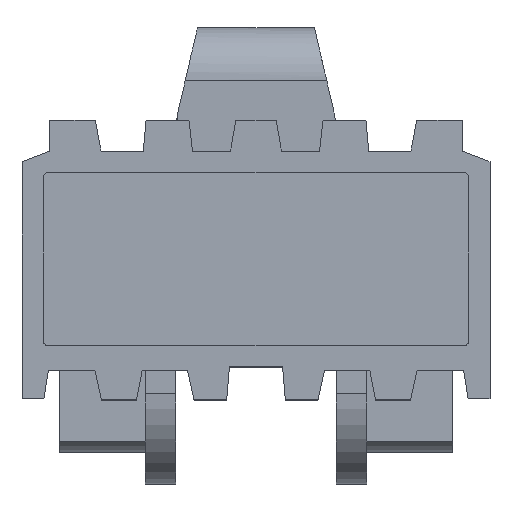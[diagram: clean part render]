
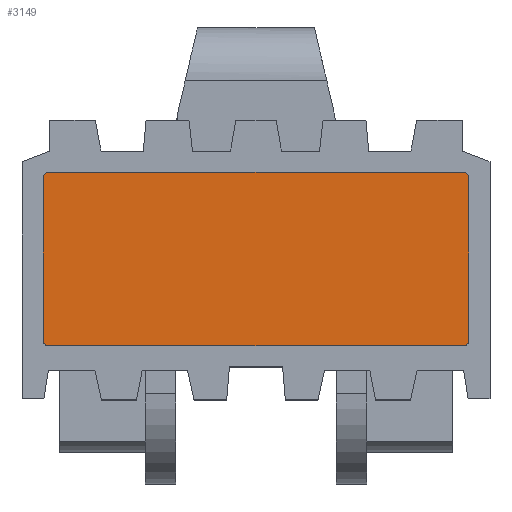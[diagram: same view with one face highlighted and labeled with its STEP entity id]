
A CAD part, top view. The second image highlights one B-rep face of the part: STEP entity #3149.
In plain terms, the highlighted planar face has unit normal (0, 0, 1).
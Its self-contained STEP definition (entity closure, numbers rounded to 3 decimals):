
#20 = CARTESIAN_POINT ( 'NONE',  ( 158.9, 128.094, 4.242 ) ) ;
#21 = DIRECTION ( 'NONE',  ( 0., 0., 1. ) ) ;
#22 = DIRECTION ( 'NONE',  ( 1., 0., 0. ) ) ;
#25 = LINE ( 'NONE', #32, #2075 ) ;
#32 = CARTESIAN_POINT ( 'NONE',  ( 158.9, 127.594, 4.242 ) ) ;
#33 = DIRECTION ( 'NONE',  ( 1., 0., 0. ) ) ;
#34 = LINE ( 'NONE', #35, #2055 ) ;
#35 = CARTESIAN_POINT ( 'NONE',  ( 198.4, 143.394, 4.242 ) ) ;
#36 = DIRECTION ( 'NONE',  ( 0., 1., 0. ) ) ;
#42 = CARTESIAN_POINT ( 'NONE',  ( 197.9, 128.094, 4.242 ) ) ;
#43 = DIRECTION ( 'NONE',  ( 0., 0., 1. ) ) ;
#44 = DIRECTION ( 'NONE',  ( 1., 0., 0. ) ) ;
#53 = LINE ( 'NONE', #66, #2058 ) ;
#54 = LINE ( 'NONE', #60, #2033 ) ;
#55 = CARTESIAN_POINT ( 'NONE',  ( 158.9, 143.394, 4.242 ) ) ;
#56 = DIRECTION ( 'NONE',  ( 0., 0., 1. ) ) ;
#57 = DIRECTION ( 'NONE',  ( 1., 0., 0. ) ) ;
#60 = CARTESIAN_POINT ( 'NONE',  ( 158.9, 143.894, 4.242 ) ) ;
#61 = DIRECTION ( 'NONE',  ( -1., 0., 0. ) ) ;
#66 = CARTESIAN_POINT ( 'NONE',  ( 158.4, 143.394, 4.242 ) ) ;
#67 = DIRECTION ( 'NONE',  ( 0., -1., 0. ) ) ;
#70 = CARTESIAN_POINT ( 'NONE',  ( 197.9, 143.394, 4.242 ) ) ;
#71 = DIRECTION ( 'NONE',  ( 0., 0., 1. ) ) ;
#72 = DIRECTION ( 'NONE',  ( 1., 0., 0. ) ) ;
#355 = PLANE ( 'NONE',  #1729 ) ;
#357 = CARTESIAN_POINT ( 'NONE',  ( 158.9, 128.094, 4.242 ) ) ;
#361 = FACE_OUTER_BOUND ( 'NONE', #3311, .T. ) ;
#363 = DIRECTION ( 'NONE',  ( 0., 0., 1. ) ) ;
#364 = DIRECTION ( 'NONE',  ( 1., 0., 0. ) ) ;
#1563 = VERTEX_POINT ( 'NONE', #2297 ) ;
#1564 = VERTEX_POINT ( 'NONE', #2298 ) ;
#1565 = VERTEX_POINT ( 'NONE', #2299 ) ;
#1566 = VERTEX_POINT ( 'NONE', #2300 ) ;
#1567 = VERTEX_POINT ( 'NONE', #2301 ) ;
#1568 = VERTEX_POINT ( 'NONE', #2302 ) ;
#1569 = VERTEX_POINT ( 'NONE', #2303 ) ;
#1570 = VERTEX_POINT ( 'NONE', #2304 ) ;
#1729 = AXIS2_PLACEMENT_3D ( 'NONE', #357, #363, #364 ) ;
#2018 = CIRCLE ( 'NONE', #2085, 0.5 ) ;
#2033 = VECTOR ( 'NONE', #61, 1000. ) ;
#2035 = CIRCLE ( 'NONE', #2051, 0.5 ) ;
#2047 = AXIS2_PLACEMENT_3D ( 'NONE', #20, #21, #22 ) ;
#2048 = CIRCLE ( 'NONE', #2047, 0.5 ) ;
#2051 = AXIS2_PLACEMENT_3D ( 'NONE', #42, #43, #44 ) ;
#2055 = VECTOR ( 'NONE', #36, 1000. ) ;
#2057 = CIRCLE ( 'NONE', #2081, 0.5 ) ;
#2058 = VECTOR ( 'NONE', #67, 1000. ) ;
#2075 = VECTOR ( 'NONE', #33, 1000. ) ;
#2081 = AXIS2_PLACEMENT_3D ( 'NONE', #55, #56, #57 ) ;
#2085 = AXIS2_PLACEMENT_3D ( 'NONE', #70, #71, #72 ) ;
#2297 = CARTESIAN_POINT ( 'NONE',  ( 158.9, 127.594, 4.242 ) ) ;
#2298 = CARTESIAN_POINT ( 'NONE',  ( 198.4, 128.094, 4.242 ) ) ;
#2299 = CARTESIAN_POINT ( 'NONE',  ( 158.4, 128.094, 4.242 ) ) ;
#2300 = CARTESIAN_POINT ( 'NONE',  ( 197.9, 127.594, 4.242 ) ) ;
#2301 = CARTESIAN_POINT ( 'NONE',  ( 198.4, 143.394, 4.242 ) ) ;
#2302 = CARTESIAN_POINT ( 'NONE',  ( 197.9, 143.894, 4.242 ) ) ;
#2303 = CARTESIAN_POINT ( 'NONE',  ( 158.9, 143.894, 4.242 ) ) ;
#2304 = CARTESIAN_POINT ( 'NONE',  ( 158.4, 143.394, 4.242 ) ) ;
#3048 = EDGE_CURVE ( 'NONE', #1565, #1563, #2048, .T. ) ;
#3052 = EDGE_CURVE ( 'NONE', #1563, #1566, #25, .T. ) ;
#3053 = EDGE_CURVE ( 'NONE', #1564, #1567, #34, .T. ) ;
#3055 = EDGE_CURVE ( 'NONE', #1566, #1564, #2035, .T. ) ;
#3059 = EDGE_CURVE ( 'NONE', #1569, #1570, #2057, .T. ) ;
#3061 = EDGE_CURVE ( 'NONE', #1568, #1569, #54, .T. ) ;
#3063 = EDGE_CURVE ( 'NONE', #1570, #1565, #53, .T. ) ;
#3064 = EDGE_CURVE ( 'NONE', #1567, #1568, #2018, .T. ) ;
#3149 = ADVANCED_FACE ( 'NONE', ( #361 ), #355, .T. ) ;
#3311 = EDGE_LOOP ( 'NONE', ( #3387, #3388, #3389, #3390, #3391, #3392, #3393, #3394 ) ) ;
#3387 = ORIENTED_EDGE ( 'NONE', *, *, #3048, .T. ) ;
#3388 = ORIENTED_EDGE ( 'NONE', *, *, #3052, .T. ) ;
#3389 = ORIENTED_EDGE ( 'NONE', *, *, #3055, .T. ) ;
#3390 = ORIENTED_EDGE ( 'NONE', *, *, #3053, .T. ) ;
#3391 = ORIENTED_EDGE ( 'NONE', *, *, #3064, .T. ) ;
#3392 = ORIENTED_EDGE ( 'NONE', *, *, #3061, .T. ) ;
#3393 = ORIENTED_EDGE ( 'NONE', *, *, #3059, .T. ) ;
#3394 = ORIENTED_EDGE ( 'NONE', *, *, #3063, .T. ) ;
